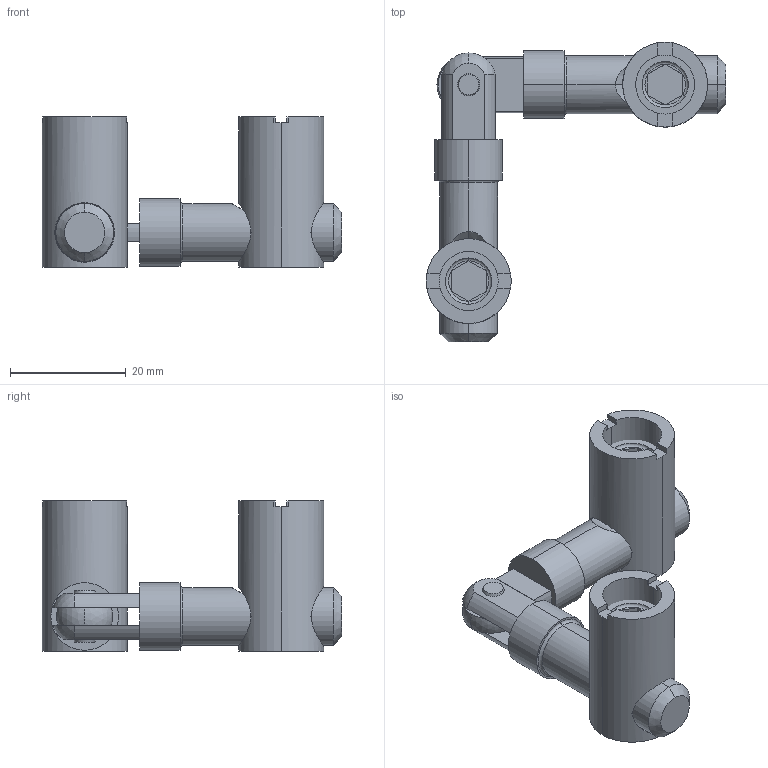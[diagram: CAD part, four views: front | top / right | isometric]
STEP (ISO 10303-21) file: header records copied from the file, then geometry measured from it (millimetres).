
FILE_DESCRIPTION (( 'STEP AP214' ), '1' );
FILE_NAME ('SNSD.30.50.15 Áûñòðîçàæèìíîé êîííåêòîð 85-180 ãðàäóñîâ, ïàç 10(Ñ16).STEP', '2014-11-17T10:48:41', ( 'XTreme.ws' ), ( 'XTreme.ws' ), 'SwSTEP 2.0', 'SolidWorks 2014', '' );
FILE_SCHEMA (( 'AUTOMOTIVE_DESIGN' ));
Length unit declared in the file: millimetre
Products named in the file (5): SNSD.30.50.31 ﾂ竟ﾑ16_00; SNSD.30.50.28 ﾏ琿褻_ﾑ16_00; SNSD.30.50.15 Áûñòðîçàæèìíîé êîííåêòîð 85-180 ãðàäóñîâ, ïàç 10(Ñ16); SNSD.30.50.29 ﾏ琿褻_ﾑ16_00; SNSD.30.50.30 Ñòàêàí_Ñ16_00
Assembly tree (6 placements, depth 2):
  SNSD.30.50.15 Áûñòðîçàæèìíîé êîííåêòîð 85-180 ãðàäóñîâ, ïàç 10(Ñ16)
    SNSD.30.50.28 ﾏ琿褻_ﾑ16_00
    SNSD.30.50.29 ﾏ琿褻_ﾑ16_00
    SNSD.30.50.30 Ñòàêàí_Ñ16_00  x2
    SNSD.30.50.31 ﾂ竟ﾑ16_00  x2
Bounding box: 51.85 x 51.85 x 26 mm (x, y, z)
Volume: 11687.1 mm3; surface area: 9207.6 mm2
Topology: 6 solids, 6 shells, 148 faces, 380 edges, 247 vertices
Faces by surface type: plane 76, cylinder 42, cone 16, torus 8, sphere 6
Entity records: 3826 total; most frequent: CARTESIAN_POINT 1078, DIRECTION 562, ORIENTED_EDGE 504, EDGE_CURVE 252, AXIS2_PLACEMENT_3D 227, VERTEX_POINT 163, EDGE_LOOP 117, CIRCLE 116
